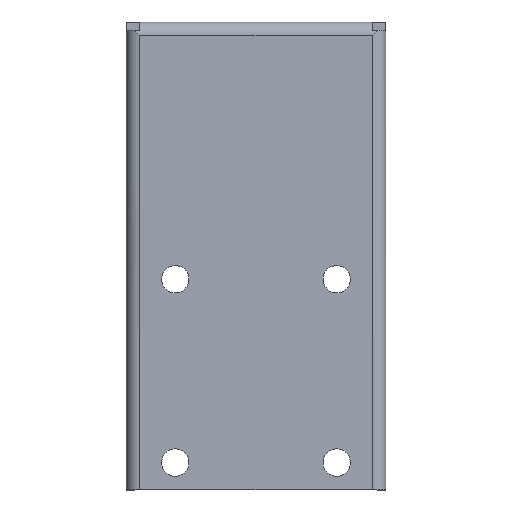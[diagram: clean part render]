
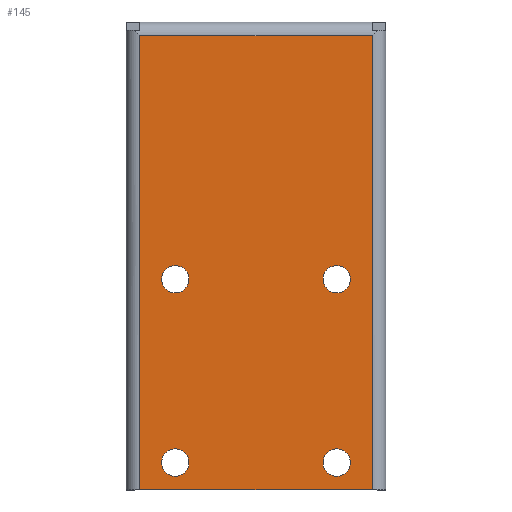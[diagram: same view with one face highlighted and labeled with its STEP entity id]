
A CAD part, top view. The second image highlights one B-rep face of the part: STEP entity #145.
In plain terms, the highlighted planar face has unit normal (0, 0, 1).
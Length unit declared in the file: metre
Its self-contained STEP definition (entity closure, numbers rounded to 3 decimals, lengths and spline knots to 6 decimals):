
#145 = ADVANCED_FACE( '', ( #304, #305, #306, #307, #308 ), #309, .F. );
#304 = FACE_BOUND( '', #470, .T. );
#305 = FACE_BOUND( '', #471, .T. );
#306 = FACE_BOUND( '', #472, .T. );
#307 = FACE_BOUND( '', #473, .T. );
#308 = FACE_OUTER_BOUND( '', #474, .T. );
#309 = PLANE( '', #475 );
#470 = EDGE_LOOP( '', ( #836 ) );
#471 = EDGE_LOOP( '', ( #837 ) );
#472 = EDGE_LOOP( '', ( #838 ) );
#473 = EDGE_LOOP( '', ( #839 ) );
#474 = EDGE_LOOP( '', ( #840, #841, #842, #843 ) );
#475 = AXIS2_PLACEMENT_3D( '', #844, #845, #846 );
#836 = ORIENTED_EDGE( '', *, *, #1051, .F. );
#837 = ORIENTED_EDGE( '', *, *, #1084, .F. );
#838 = ORIENTED_EDGE( '', *, *, #1095, .F. );
#839 = ORIENTED_EDGE( '', *, *, #1122, .F. );
#840 = ORIENTED_EDGE( '', *, *, #998, .T. );
#841 = ORIENTED_EDGE( '', *, *, #1101, .T. );
#842 = ORIENTED_EDGE( '', *, *, #1013, .F. );
#843 = ORIENTED_EDGE( '', *, *, #1137, .F. );
#844 = CARTESIAN_POINT( '', ( 0.006018, -0.168, 0.05 ) );
#845 = DIRECTION( '', ( 0., 0., -1. ) );
#846 = DIRECTION( '', ( -1., 0., 0. ) );
#998 = EDGE_CURVE( '', #1200, #1198, #1201, .T. );
#1013 = EDGE_CURVE( '', #1225, #1226, #1227, .T. );
#1051 = EDGE_CURVE( '', #1287, #1287, #1288, .T. );
#1084 = EDGE_CURVE( '', #1337, #1337, #1338, .T. );
#1095 = EDGE_CURVE( '', #1353, #1353, #1354, .T. );
#1101 = EDGE_CURVE( '', #1198, #1226, #1361, .T. );
#1122 = EDGE_CURVE( '', #1389, #1389, #1390, .T. );
#1137 = EDGE_CURVE( '', #1200, #1225, #1408, .T. );
#1198 = VERTEX_POINT( '', #1479 );
#1200 = VERTEX_POINT( '', #1481 );
#1201 = LINE( '', #1482, #1483 );
#1225 = VERTEX_POINT( '', #1514 );
#1226 = VERTEX_POINT( '', #1515 );
#1227 = LINE( '', #1516, #1517 );
#1287 = VERTEX_POINT( '', #1594 );
#1288 = CIRCLE( '', #1595, 0.005 );
#1337 = VERTEX_POINT( '', #1662 );
#1338 = CIRCLE( '', #1663, 0.005 );
#1353 = VERTEX_POINT( '', #1684 );
#1354 = CIRCLE( '', #1685, 0.005 );
#1361 = LINE( '', #1694, #1695 );
#1389 = VERTEX_POINT( '', #1738 );
#1390 = CIRCLE( '', #1739, 0.005 );
#1408 = LINE( '', #1763, #1764 );
#1479 = CARTESIAN_POINT( '', ( 0.0425, -0.002, 0.05 ) );
#1481 = CARTESIAN_POINT( '', ( 0.0425, -0.168, 0.05 ) );
#1482 = CARTESIAN_POINT( '', ( 0.0425, -0.168, 0.05 ) );
#1483 = VECTOR( '', #1831, 1. );
#1514 = CARTESIAN_POINT( '', ( -0.0425, -0.168, 0.05 ) );
#1515 = CARTESIAN_POINT( '', ( -0.0425, -0.002, 0.05 ) );
#1516 = CARTESIAN_POINT( '', ( -0.0425, -0.168, 0.05 ) );
#1517 = VECTOR( '', #1851, 1. );
#1594 = CARTESIAN_POINT( '', ( 0.0345, -0.158, 0.05 ) );
#1595 = AXIS2_PLACEMENT_3D( '', #1905, #1906, #1907 );
#1662 = CARTESIAN_POINT( '', ( 0.0345, -0.091, 0.05 ) );
#1663 = AXIS2_PLACEMENT_3D( '', #1941, #1942, #1943 );
#1684 = CARTESIAN_POINT( '', ( -0.0245, -0.091, 0.05 ) );
#1685 = AXIS2_PLACEMENT_3D( '', #1956, #1957, #1958 );
#1694 = CARTESIAN_POINT( '', ( -0.0425, -0.002, 0.05 ) );
#1695 = VECTOR( '', #1964, 1. );
#1738 = CARTESIAN_POINT( '', ( -0.0245, -0.158, 0.05 ) );
#1739 = AXIS2_PLACEMENT_3D( '', #1980, #1981, #1982 );
#1763 = CARTESIAN_POINT( '', ( 0.006018, -0.168, 0.05 ) );
#1764 = VECTOR( '', #1995, 1. );
#1831 = DIRECTION( '', ( 0., 1., 0. ) );
#1851 = DIRECTION( '', ( 0., 1., 0. ) );
#1905 = CARTESIAN_POINT( '', ( 0.0295, -0.158, 0.05 ) );
#1906 = DIRECTION( '', ( 0., 0., 1. ) );
#1907 = DIRECTION( '', ( 1., 0., 0. ) );
#1941 = CARTESIAN_POINT( '', ( 0.0295, -0.091, 0.05 ) );
#1942 = DIRECTION( '', ( 0., 0., 1. ) );
#1943 = DIRECTION( '', ( 1., 0., 0. ) );
#1956 = CARTESIAN_POINT( '', ( -0.0295, -0.091, 0.05 ) );
#1957 = DIRECTION( '', ( 0., 0., 1. ) );
#1958 = DIRECTION( '', ( 1., 0., 0. ) );
#1964 = DIRECTION( '', ( -1., 0., 0. ) );
#1980 = CARTESIAN_POINT( '', ( -0.0295, -0.158, 0.05 ) );
#1981 = DIRECTION( '', ( 0., 0., 1. ) );
#1982 = DIRECTION( '', ( 1., 0., 0. ) );
#1995 = DIRECTION( '', ( -1., 0., 0. ) );
